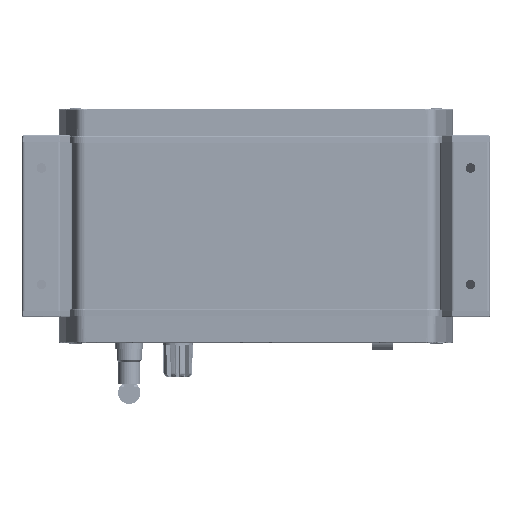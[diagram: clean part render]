
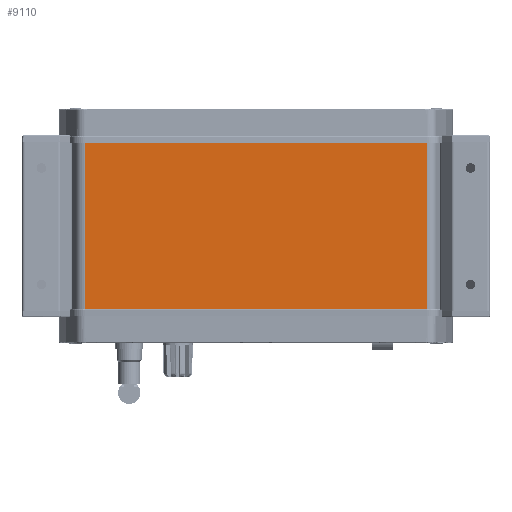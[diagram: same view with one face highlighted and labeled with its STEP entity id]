
A CAD part, front view. The second image highlights one B-rep face of the part: STEP entity #9110.
In plain terms, the highlighted free-form (B-spline) face has degree [1, 1] with [2, 2] control points.
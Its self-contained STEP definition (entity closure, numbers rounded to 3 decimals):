
#159=DIRECTION('',(-1.,0.,0.));
#160=VECTOR('',#159,161.601);
#161=CARTESIAN_POINT('',(80.801,-26.3,-75.));
#162=LINE('',#161,#160);
#3729=DIRECTION('',(0.,0.,1.));
#3730=VECTOR('',#3729,80.);
#3731=CARTESIAN_POINT('',(-80.801,-26.3,-75.));
#3732=LINE('',#3731,#3730);
#3736=DIRECTION('',(1.,0.,0.));
#3737=VECTOR('',#3736,161.601);
#3738=CARTESIAN_POINT('',(-80.801,-26.3,5.));
#3739=LINE('',#3738,#3737);
#3751=DIRECTION('',(0.,0.,-1.));
#3752=VECTOR('',#3751,80.);
#3753=CARTESIAN_POINT('',(80.801,-26.3,5.));
#3754=LINE('',#3753,#3752);
#5272=CARTESIAN_POINT('',(80.801,-26.3,-75.));
#5273=VERTEX_POINT('',#5272);
#5274=CARTESIAN_POINT('',(-80.801,-26.3,-75.));
#5275=VERTEX_POINT('',#5274);
#6139=CARTESIAN_POINT('',(80.801,-26.3,5.));
#6141=VERTEX_POINT('',#6139);
#6142=CARTESIAN_POINT('',(-80.801,-26.3,5.));
#6144=VERTEX_POINT('',#6142);
#9098=CARTESIAN_POINT('',(-84.033,-26.3,6.6));
#9099=CARTESIAN_POINT('',(84.033,-26.3,6.6));
#9100=CARTESIAN_POINT('',(-84.033,-26.3,-76.6));
#9101=CARTESIAN_POINT('',(84.033,-26.3,-76.6));
#9102=B_SPLINE_SURFACE_WITH_KNOTS('',1,1,((#9098,#9099),(#9100,#9101)),
.UNSPECIFIED.,.F.,.F.,.F.,(2,2),(2,2),(-6.6,76.6),(-167.878,
0.188),.UNSPECIFIED.);
#9103=ORIENTED_EDGE('',*,*,#6207,.T.);
#9105=ORIENTED_EDGE('',*,*,#9104,.T.);
#9106=ORIENTED_EDGE('',*,*,#6964,.T.);
#9107=ORIENTED_EDGE('',*,*,#9091,.T.);
#9108=EDGE_LOOP('',(#9103,#9105,#9106,#9107));
#9109=FACE_OUTER_BOUND('',#9108,.F.);
#6207=EDGE_CURVE('',#6144,#6141,#3739,.T.);
#6964=EDGE_CURVE('',#5273,#5275,#162,.T.);
#9091=EDGE_CURVE('',#5275,#6144,#3732,.T.);
#9104=EDGE_CURVE('',#6141,#5273,#3754,.T.);
#9110=ADVANCED_FACE('',(#9109),#9102,.T.);
